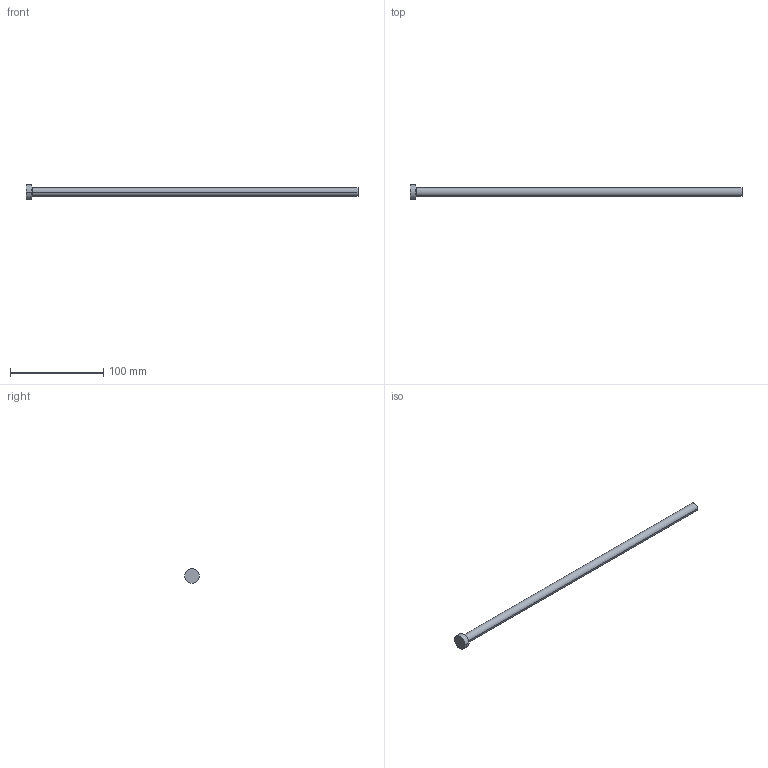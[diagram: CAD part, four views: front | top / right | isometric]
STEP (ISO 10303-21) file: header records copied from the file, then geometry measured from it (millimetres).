
FILE_DESCRIPTION (( 'STEP AP214' ), '1' );
FILE_NAME ('P25-14.STEP', '2020-03-12T09:56:37', ( '' ), ( '' ), 'SwSTEP 2.0', 'SolidWorks 2018', '' );
FILE_SCHEMA (( 'AUTOMOTIVE_DESIGN' ));
Length unit declared in the file: inch
Products named in the file (1): P25-14
Bounding box: 355.6 x 15.88 x 15.88 mm (x, y, z)
Volume: 26106.5 mm3; surface area: 11139.6 mm2
Topology: 1 solids, 1 shells, 13 faces, 24 edges, 14 vertices
Faces by surface type: cone 4, cylinder 4, plane 3, torus 2
Entity records: 366 total; most frequent: DIRECTION 68, CARTESIAN_POINT 52, ORIENTED_EDGE 48, AXIS2_PLACEMENT_3D 30, EDGE_CURVE 24, CIRCLE 16, EDGE_LOOP 14, VERTEX_POINT 14
